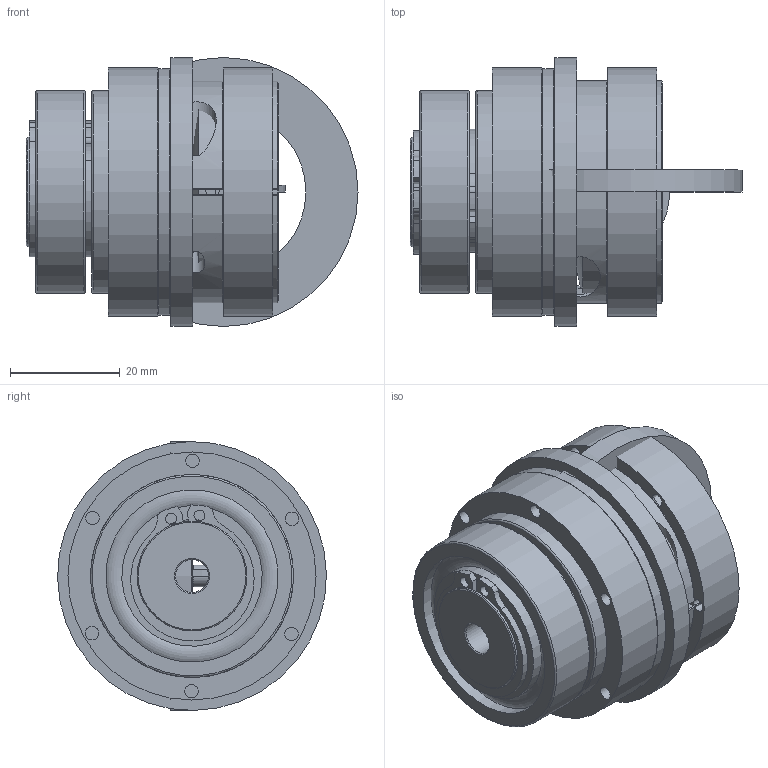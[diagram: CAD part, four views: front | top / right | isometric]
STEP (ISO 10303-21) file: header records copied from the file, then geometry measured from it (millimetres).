
FILE_DESCRIPTION( ( 'Unknown' ), '1' );
FILE_NAME( 'C:/Dokumente und Einstellungen/Sven/Desktop/hp kbk/KBK LL-K-10.stp', 'Unknown', ( 'Unknown' ), ( 'Unknown' ), 'XStep 1.0', 'Unknown', ' ' );
FILE_SCHEMA( ( 'automotive_design' ) );
Length unit declared in the file: millimetre
Products named in the file (13): Assem1; Assem2; Assem3; ball_bearing_-_61904_0_01; ball_bearing_-_61904_0_02; ball_bearing_-_61904_0_03; Zylinderschraube DIN 912; Klemmnabe 7-10; Druckring 10; Flansch L-LL10; a_20; LL-K-10 Grundteil; Stellring 10
Bounding box: 60.5 x 48.99 x 49 mm (x, y, z)
Volume: 105304.4 mm3; surface area: 70072.1 mm2
Topology: 28 solids, 28 shells, 335 faces, 720 edges, 465 vertices
Faces by surface type: plane 142, cylinder 126, torus 34, cone 33
Full cylindrical faces by diameter (mm): 2 x6, 2.459 x16, 3.242 x2, 4 x3, 4.2 x2, 6 x2, 7 x3, 7.3 x2, 19 x4, 20 x10, 22 x2, 24 x4, 25 x2, 25.6 x8, 29 x2, 29.993 x2, 31.4 x8, 37 x6, 38 x2, 40 x2, 45 x2, 45.2 x2, 49 x2
Entity records: 4072 total; most frequent: CARTESIAN_POINT 861, DIRECTION 608, ORIENTED_EDGE 438, AXIS2_PLACEMENT_3D 268, EDGE_LOOP 234, EDGE_CURVE 219, FACE_OUTER_BOUND 183, VERTEX_POINT 177
